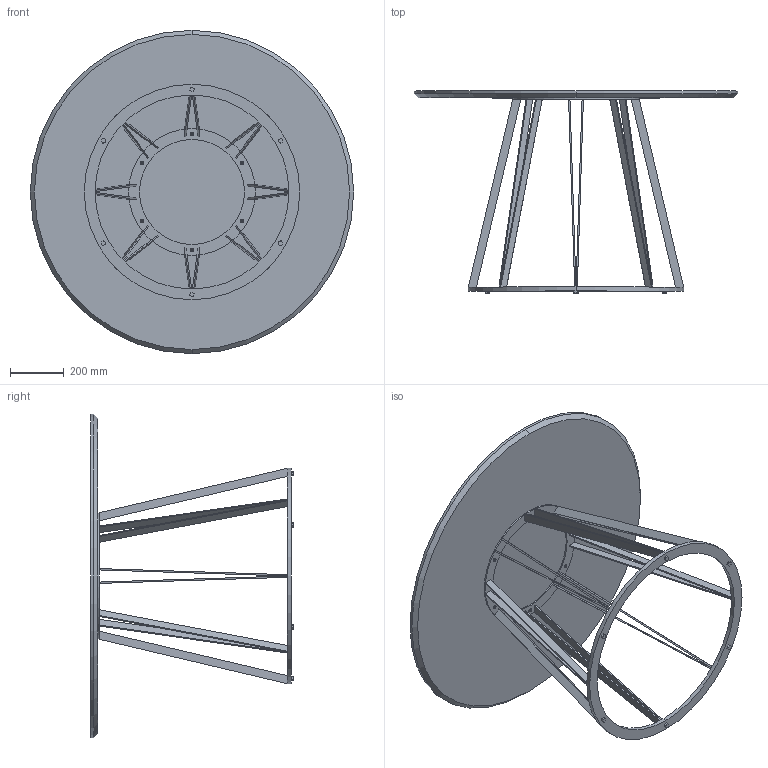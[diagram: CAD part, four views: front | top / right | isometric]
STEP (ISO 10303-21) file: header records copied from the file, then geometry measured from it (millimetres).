
FILE_DESCRIPTION (( 'STEP AP214' ), '1' );
FILE_NAME ('Ghoomar Table - D1200xH750.STEP', '2024-04-04T12:33:53', ( '' ), ( '' ), 'SwSTEP 2.0', 'SolidWorks 2023', '' );
FILE_SCHEMA (( 'AUTOMOTIVE_DESIGN' ));
Length unit declared in the file: millimetre
Products named in the file (7): BushR-01; M6x16MM Flate head allen BoltR-01; M6x20MM Hex LevellerR-01; Ghoomar Table - D1200xH750; Wood insert nut_M6R-01; Metal FrameR-01; Wooden TopR-01
Assembly tree (26 placements, depth 2):
  Ghoomar Table - D1200xH750
    Metal FrameR-01
    Wooden TopR-01
    M6x16MM Flate head allen BoltR-01  x6
    M6x20MM Hex LevellerR-01  x6
    Wood insert nut_M6R-01  x6
    BushR-01  x6
Bounding box: 1200 x 750 x 1200 mm (x, y, z)
Volume: 31243678.2 mm3; surface area: 3520704.9 mm2
Topology: 43 solids, 43 shells, 1131 faces, 2890 edges, 1874 vertices
Faces by surface type: cylinder 608, plane 353, torus 78, bspline 66, cone 26
Entity records: 16688 total; most frequent: CARTESIAN_POINT 9321, ORIENTED_EDGE 1510, DIRECTION 1311, EDGE_CURVE 755, VERTEX_POINT 494, AXIS2_PLACEMENT_3D 484, EDGE_LOOP 355, LINE 343
